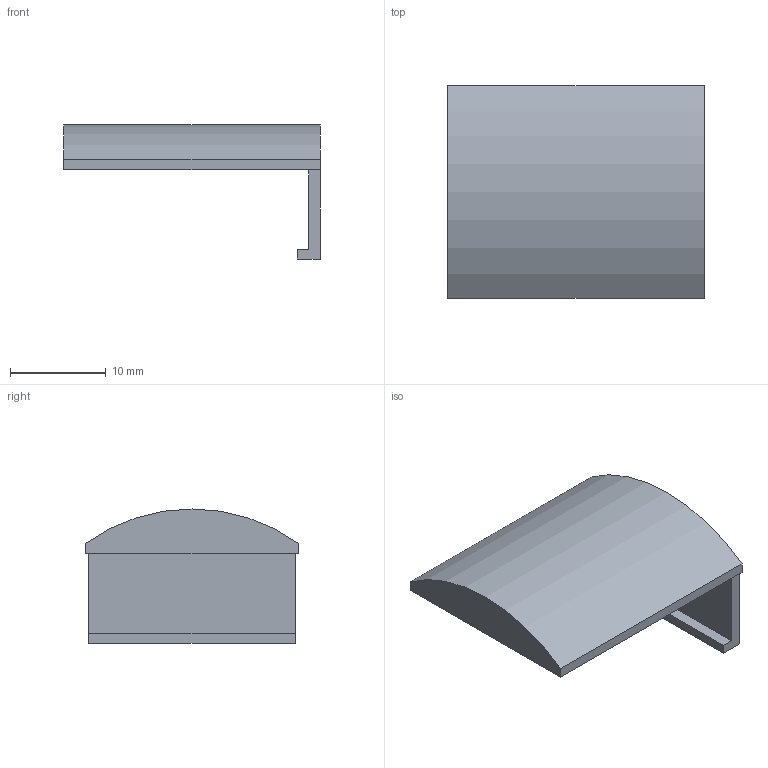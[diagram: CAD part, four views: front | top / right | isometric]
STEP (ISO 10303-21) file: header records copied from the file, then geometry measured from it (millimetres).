
FILE_DESCRIPTION(('SkyG Speed 90B - revision C6B-3 - 2026-10-08','HG-gps-carrier'),'2;1');
FILE_NAME('HG-gps-carrier_C6B-3','2026-10-08T03:13:11',('Author'),( 'Open CASCADE'),'Open CASCADE STEP processor 7.9','Open CASCADE 7.9' ,'Unknown');
FILE_SCHEMA(('AUTOMOTIVE_DESIGN { 1 0 10303 214 1 1 1 1 }'));
Length unit declared in the file: millimetre
Products named in the file (1): HG-gps-carrier C6B-3
Bounding box: 26.8 x 22.23 x 14 mm (x, y, z)
Volume: 2379.3 mm3; surface area: 1926.9 mm2
Topology: 1 solids, 1 shells, 12 faces, 30 edges, 20 vertices
Faces by surface type: plane 11, cylinder 1
Entity records: 752 total; most frequent: CARTESIAN_POINT 145, DIRECTION 106, LINE 76, VECTOR 76, ORIENTED_EDGE 60, PCURVE 60, DEFINITIONAL_REPRESENTATION 60, EDGE_CURVE 30
